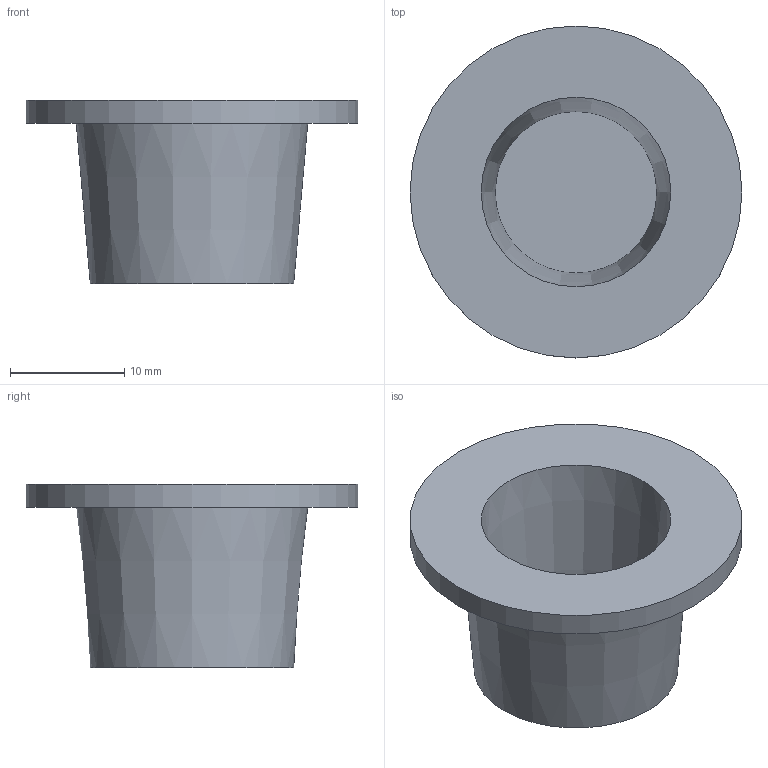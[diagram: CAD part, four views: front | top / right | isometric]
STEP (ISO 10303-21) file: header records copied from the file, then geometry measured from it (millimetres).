
FILE_DESCRIPTION( ('This file contains a STEP AP42 implementation' ,'as created by ZW3D STEP Interface translator.') ,'2;1' );
FILE_NAME( 'OGWm-1_2.stp' ,'26 817.131540', (''), ('ZWCAD Software Co.'), 'Version 1.0', 'ZW3D to STEP translator', '' );
FILE_SCHEMA(('AP242_MANAGED_MODEL_BASED_3D_ENGINEERING_MIM_LF { 1 0 10303 442 1 1 4 }'));
Length unit declared in the file: millimetre
Products named in the file (1): 0
Bounding box: 29 x 29 x 16 mm (x, y, z)
Volume: 2704.8 mm3; surface area: 2887 mm2
Topology: 1 solids, 1 shells, 7 faces, 9 edges, 6 vertices
Faces by surface type: plane 4, cone 2, cylinder 1
Full cylindrical faces by diameter (mm): 29 x1
Entity records: 176 total; most frequent: DIRECTION 31, CARTESIAN_POINT 23, ORIENTED_EDGE 18, AXIS2_PLACEMENT_3D 14, EDGE_CURVE 9, EDGE_LOOP 9, FACE_OUTER_BOUND 7, ADVANCED_FACE 7
